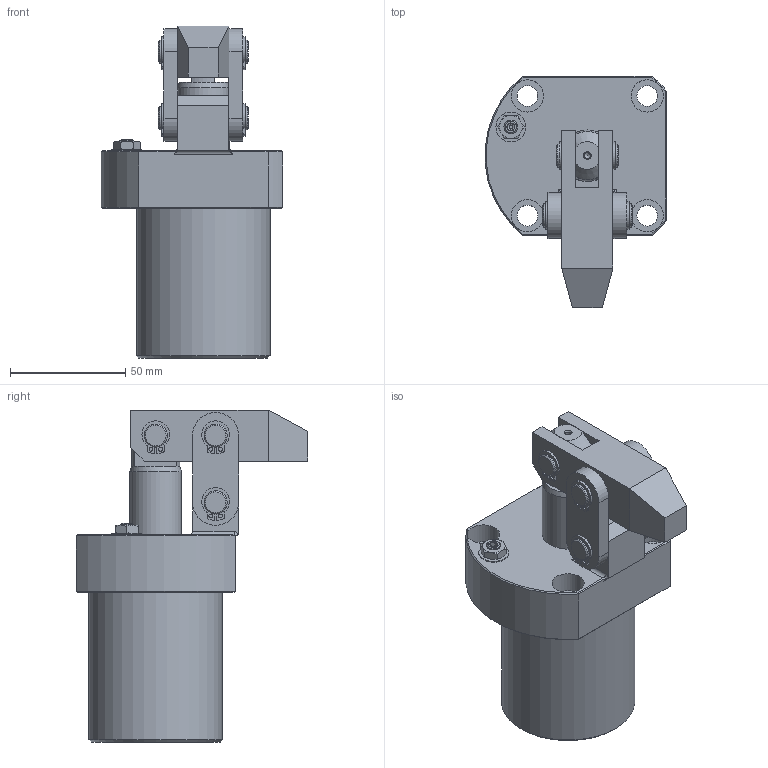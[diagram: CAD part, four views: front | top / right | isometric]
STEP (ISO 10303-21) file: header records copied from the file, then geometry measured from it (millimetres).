
FILE_DESCRIPTION(/* description */ ('Unknown'),/* implementation_level */ '2;1');
FILE_NAME(/* name */ 'HLC-FCM40-R-A',/* time_stamp */ '2022-11-23T03:55:17+08:00',/* author */ ('Unknown'),/* organization */ ('Unknown'),/* preprocessor_version */ 'ST-DEVELOPER v16.7',/* originating_system */ 'DEX',/* authorisation */ $);
FILE_SCHEMA (('AUTOMOTIVE_DESIGN {1 0 10303 214 3 1 1}'));
Length unit declared in the file: millimetre
Products named in the file (8): HLC-FCM40-R-A; HLC-FCM40-R-CYLINDER; HLC-4002-AXLE CENTRE; HLC-FCM40-C扣; HLC-40-A; HLC-FCM40-墊; HLC-FCM40-PINµu; HLC-FCM40-PINªø
Assembly tree (14 placements, depth 2):
  HLC-FCM40-R-A
    HLC-FCM40-R-CYLINDER
    HLC-4002-AXLE CENTRE
    HLC-FCM40-C扣  x6
    HLC-40-A
    HLC-FCM40-墊  x2
    HLC-FCM40-PINµu
    HLC-FCM40-PINªø  x2
Bounding box: 78.86 x 100.5 x 144.2 mm (x, y, z)
Volume: 319754.3 mm3; surface area: 71448.2 mm2
Topology: 14 solids, 14 shells, 297 faces, 684 edges, 446 vertices
Faces by surface type: plane 127, cylinder 125, cone 31, bspline 12, torus 2
Full cylindrical faces by diameter (mm): 1.7 x12, 2.496 x1, 3 x2, 4.1 x2, 6 x1, 9 x4, 9.5 x6, 10 x18, 12 x2, 13 x1, 14 x4, 22.4 x2, 39.5 x1, 40 x1, 58 x1
Entity records: 5440 total; most frequent: CARTESIAN_POINT 1175, DIRECTION 845, ORIENTED_EDGE 714, EDGE_CURVE 357, AXIS2_PLACEMENT_3D 355, FACE_BOUND 308, EDGE_LOOP 307, VERTEX_POINT 261
